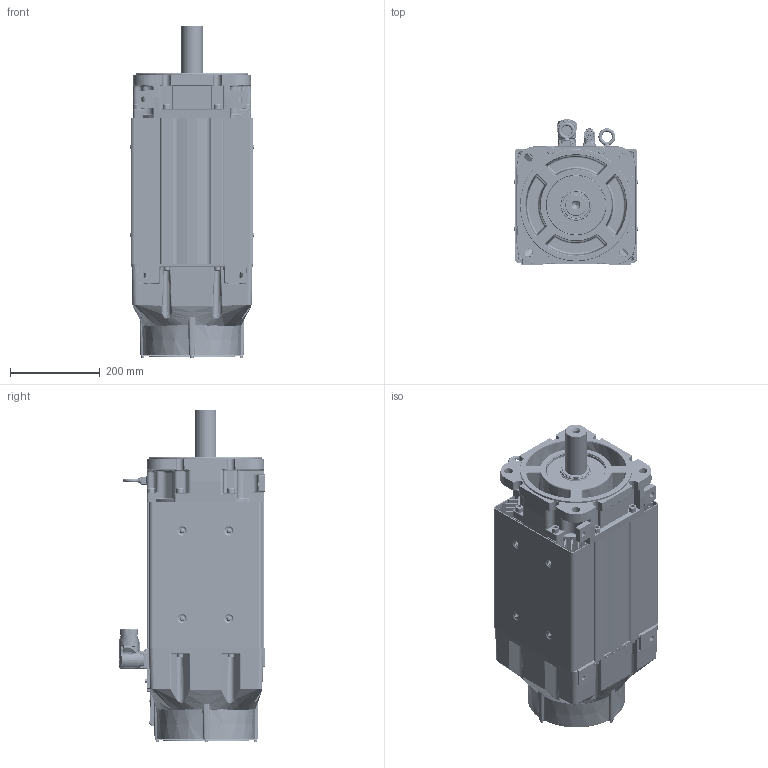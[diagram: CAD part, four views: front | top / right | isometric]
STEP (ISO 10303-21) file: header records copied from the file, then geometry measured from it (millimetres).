
FILE_DESCRIPTION((''),'2;1');
FILE_NAME('VPC-B30049-YK72FX_ASM','2016-09-27T',('SRGaddam'),('Rockwell Automation'),'PRO/ENGINEER BY PARAMETRIC TECHNOLOGY CORPORATION, 2012480','PRO/ENGINEER BY PARAMETRIC TECHNOLOGY CORPORATION, 2012480','');
FILE_SCHEMA(('CONFIG_CONTROL_DESIGN'));
Products named in the file (41): 10001404634_AF0; 10001404629_AF6; 10001404635_ASM; 10001585735; 10001441958; 10001737030; 10001448101; 10001587021; 10001405269_AF12; 10001405240_AF25; 10001405367_ASM; 10001946256; 10001956852; 10001989665; 10001713549_ASM; M4X7X14-SOCHD-CAP-SCR; 10001978970; 10001336508; 10001587431; CH4X063; 10001299929; 10001284567; 10000172464; 10001445961; 221404-Q12; 10000231113; 10002279234; 10001443420_ASM; 10001609981; 0002-5004; 10001586887; 10001439756; 142403; 125284; 142403-1_ASM; M940_ASM; 142414_623; 135798_623; 142414-1_623_ASM; M623_ASM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
Assembly tree (80 placements, depth 4):
  VPC-B30049-YK72FX_ASM
    10001404635_ASM
      10001404634_AF0
      10001404629_AF6
    10001585735  x8
    10001441958
    10001737030
    10001448101  x2
    10001587021  x8
    10001405367_ASM
      10001405269_AF12
      10001405240_AF25
    10001443420_ASM
      10001946256
      10001713549_ASM
        10001956852
        10001989665
      M4X7X14-SOCHD-CAP-SCR  x4
      10001978970
      10001336508
      10001587431
      CH4X063  x2
      10001299929
      10001284567
      10000172464  x4
      10001445961
      221404-Q12  x5
      10000231113
      10002279234
    10001609981
    0002-5004  x2
    10001586887  x6
    10001439756
    M940_ASM
      142403-1_ASM
        142403
        125284
      221404-Q12  x4
    M623_ASM
      142414-1_623_ASM
        142414_623
        135798_623
      10000172464  x4
Bounding box: 275.91 x 324.15 x 739.85 mm (x, y, z)
Volume: 12171759.9 mm3; surface area: 2966472.8 mm2
Topology: 84 solids, 85 shells, 8030 faces, 19055 edges, 11451 vertices
Faces by surface type: cylinder 2443, plane 2239, bspline 1318, cone 1199, torus 683, sphere 142, extrusion 6
Entity records: 223169 total; most frequent: CARTESIAN_POINT 95104, ORIENTED_EDGE 27452, DIRECTION 25269, EDGE_CURVE 13726, AXIS2_PLACEMENT_3D 9754, VERTEX_POINT 8497, EDGE_LOOP 6191, VECTOR 5761
